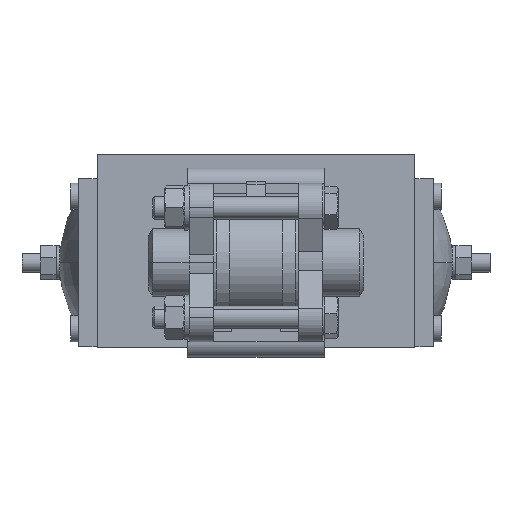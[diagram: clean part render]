
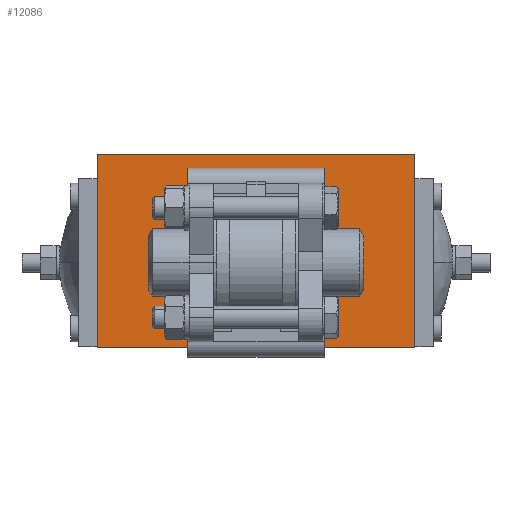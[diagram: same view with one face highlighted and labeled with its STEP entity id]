
A CAD part, front view. The second image highlights one B-rep face of the part: STEP entity #12086.
In plain terms, the highlighted planar face has unit normal (0, -1, 0).
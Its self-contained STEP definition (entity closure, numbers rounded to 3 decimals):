
#941 = CARTESIAN_POINT ( 'NONE',  ( -12.728, -22.5, -12.728 ) ) ;
#942 = DIRECTION ( 'NONE',  ( 0., -1., 0. ) ) ;
#943 = DIRECTION ( 'NONE',  ( 0., 0., -1. ) ) ;
#1681 = CARTESIAN_POINT ( 'NONE',  ( 12.728, -22.5, 12.728 ) ) ;
#1682 = DIRECTION ( 'NONE',  ( 0., -1., 0. ) ) ;
#1683 = DIRECTION ( 'NONE',  ( 0., 0., -1. ) ) ;
#1741 = LINE ( 'NONE', #1743, #7983 ) ;
#1743 = CARTESIAN_POINT ( 'NONE',  ( -22.5, -22.5, -42. ) ) ;
#1744 = DIRECTION ( 'NONE',  ( 1., 0., 0. ) ) ;
#1759 = CARTESIAN_POINT ( 'NONE',  ( 0., -22.5, 0. ) ) ;
#1760 = DIRECTION ( 'NONE',  ( 0., -1., 0. ) ) ;
#1761 = DIRECTION ( 'NONE',  ( 0., 0., -1. ) ) ;
#1778 = LINE ( 'NONE', #1779, #7968 ) ;
#1779 = CARTESIAN_POINT ( 'NONE',  ( 28.5, -22.5, -42. ) ) ;
#1780 = DIRECTION ( 'NONE',  ( 0., 0., 1. ) ) ;
#1817 = CARTESIAN_POINT ( 'NONE',  ( 12.728, -22.5, -12.728 ) ) ;
#1818 = DIRECTION ( 'NONE',  ( 0., -1., 0. ) ) ;
#1819 = DIRECTION ( 'NONE',  ( 0., 0., -1. ) ) ;
#1848 = CARTESIAN_POINT ( 'NONE',  ( -12.728, -22.5, 12.728 ) ) ;
#1849 = DIRECTION ( 'NONE',  ( 0., -1., 0. ) ) ;
#1850 = DIRECTION ( 'NONE',  ( 0., 0., -1. ) ) ;
#2060 = CARTESIAN_POINT ( 'NONE',  ( 12.728, -22.5, 14.828 ) ) ;
#2061 = CARTESIAN_POINT ( 'NONE',  ( 12.728, -22.5, 10.628 ) ) ;
#2063 = CARTESIAN_POINT ( 'NONE',  ( 12.728, -22.5, -10.628 ) ) ;
#2067 = CARTESIAN_POINT ( 'NONE',  ( 12.728, -22.5, -14.828 ) ) ;
#2070 = CARTESIAN_POINT ( 'NONE',  ( -12.728, -22.5, -10.628 ) ) ;
#2071 = CARTESIAN_POINT ( 'NONE',  ( -12.728, -22.5, -14.828 ) ) ;
#2076 = CARTESIAN_POINT ( 'NONE',  ( -12.728, -22.5, 14.828 ) ) ;
#2078 = CARTESIAN_POINT ( 'NONE',  ( -12.728, -22.5, 10.628 ) ) ;
#2105 = CARTESIAN_POINT ( 'NONE',  ( 0., -22.5, 10. ) ) ;
#2106 = CARTESIAN_POINT ( 'NONE',  ( 0., -22.5, -10. ) ) ;
#2281 = CARTESIAN_POINT ( 'NONE',  ( -22.5, -22.5, -42. ) ) ;
#2289 = CARTESIAN_POINT ( 'NONE',  ( 28.5, -22.5, -42. ) ) ;
#2295 = CARTESIAN_POINT ( 'NONE',  ( -22.5, -22.5, 42. ) ) ;
#2301 = CARTESIAN_POINT ( 'NONE',  ( 28.5, -22.5, 42. ) ) ;
#2661 = EDGE_CURVE ( 'NONE', #13139, #13140, #14963, .T. ) ;
#2669 = EDGE_CURVE ( 'NONE', #13142, #13146, #14947, .T. ) ;
#2673 = EDGE_CURVE ( 'NONE', #13149, #13150, #14928, .T. ) ;
#2679 = EDGE_CURVE ( 'NONE', #13155, #13157, #14911, .T. ) ;
#7058 = AXIS2_PLACEMENT_3D ( 'NONE', #7337, #7338, #7339 ) ;
#7317 = FACE_BOUND ( 'NONE', #15555, .T. ) ;
#7330 = FACE_BOUND ( 'NONE', #15551, .T. ) ;
#7331 = FACE_BOUND ( 'NONE', #15545, .T. ) ;
#7332 = FACE_OUTER_BOUND ( 'NONE', #15642, .T. ) ;
#7333 = PLANE ( 'NONE',  #7058 ) ;
#7334 = FACE_BOUND ( 'NONE', #15553, .T. ) ;
#7336 = FACE_BOUND ( 'NONE', #15550, .T. ) ;
#7337 = CARTESIAN_POINT ( 'NONE',  ( -22.5, -22.5, -42. ) ) ;
#7338 = DIRECTION ( 'NONE',  ( 0., -1., 0. ) ) ;
#7339 = DIRECTION ( 'NONE',  ( 0., 0., -1. ) ) ;
#7698 = EDGE_CURVE ( 'NONE', #13150, #13149, #11009, .T. ) ;
#7764 = EDGE_CURVE ( 'NONE', #13374, #13380, #8444, .T. ) ;
#7932 = AXIS2_PLACEMENT_3D ( 'NONE', #1848, #1849, #1850 ) ;
#7934 = CIRCLE ( 'NONE', #7932, 2.1 ) ;
#7950 = AXIS2_PLACEMENT_3D ( 'NONE', #1817, #1818, #1819 ) ;
#7953 = CIRCLE ( 'NONE', #7950, 2.1 ) ;
#7968 = VECTOR ( 'NONE', #1780, 1000. ) ;
#7974 = AXIS2_PLACEMENT_3D ( 'NONE', #1759, #1760, #1761 ) ;
#7976 = CIRCLE ( 'NONE', #7974, 10. ) ;
#7983 = VECTOR ( 'NONE', #1744, 1000. ) ;
#8010 = AXIS2_PLACEMENT_3D ( 'NONE', #1681, #1682, #1683 ) ;
#8012 = CIRCLE ( 'NONE', #8010, 2.1 ) ;
#8444 = LINE ( 'NONE', #8446, #11323 ) ;
#8446 = CARTESIAN_POINT ( 'NONE',  ( -22.5, -22.5, 42. ) ) ;
#8447 = DIRECTION ( 'NONE',  ( 1., 0., 0. ) ) ;
#8934 = EDGE_CURVE ( 'NONE', #13360, #13374, #9677, .T. ) ;
#9389 = EDGE_CURVE ( 'NONE', #13184, #13185, #11138, .T. ) ;
#9677 = LINE ( 'NONE', #9691, #11409 ) ;
#9691 = CARTESIAN_POINT ( 'NONE',  ( -22.5, -22.5, -42. ) ) ;
#9693 = DIRECTION ( 'NONE',  ( 0., 0., 1. ) ) ;
#9940 = CARTESIAN_POINT ( 'NONE',  ( 0., -22.5, 0. ) ) ;
#9941 = DIRECTION ( 'NONE',  ( 0., -1., 0. ) ) ;
#9942 = DIRECTION ( 'NONE',  ( 0., 0., -1. ) ) ;
#10242 = CARTESIAN_POINT ( 'NONE',  ( 12.728, -22.5, 12.728 ) ) ;
#10243 = DIRECTION ( 'NONE',  ( 0., -1., 0. ) ) ;
#10244 = DIRECTION ( 'NONE',  ( 0., 0., -1. ) ) ;
#10264 = CARTESIAN_POINT ( 'NONE',  ( 12.728, -22.5, -12.728 ) ) ;
#10265 = DIRECTION ( 'NONE',  ( 0., -1., 0. ) ) ;
#10266 = DIRECTION ( 'NONE',  ( 0., 0., -1. ) ) ;
#10278 = CARTESIAN_POINT ( 'NONE',  ( -12.728, -22.5, -12.728 ) ) ;
#10279 = DIRECTION ( 'NONE',  ( 0., -1., 0. ) ) ;
#10280 = DIRECTION ( 'NONE',  ( 0., 0., -1. ) ) ;
#10296 = CARTESIAN_POINT ( 'NONE',  ( -12.728, -22.5, 12.728 ) ) ;
#10297 = DIRECTION ( 'NONE',  ( 0., -1., 0. ) ) ;
#10298 = DIRECTION ( 'NONE',  ( 0., 0., -1. ) ) ;
#10972 = AXIS2_PLACEMENT_3D ( 'NONE', #9940, #9941, #9942 ) ;
#11009 = CIRCLE ( 'NONE', #11333, 2.1 ) ;
#11138 = CIRCLE ( 'NONE', #10972, 10. ) ;
#11323 = VECTOR ( 'NONE', #8447, 1000. ) ;
#11333 = AXIS2_PLACEMENT_3D ( 'NONE', #941, #942, #943 ) ;
#11409 = VECTOR ( 'NONE', #9693, 1000. ) ;
#12086 = ADVANCED_FACE ( 'NONE', ( #7331, #7317, #7334, #7336, #7330, #7332 ), #7333, .T. ) ;
#12840 = EDGE_CURVE ( 'NONE', #13140, #13139, #8012, .T. ) ;
#12860 = EDGE_CURVE ( 'NONE', #13360, #13368, #1741, .T. ) ;
#12866 = EDGE_CURVE ( 'NONE', #13185, #13184, #7976, .T. ) ;
#12873 = EDGE_CURVE ( 'NONE', #13368, #13380, #1778, .T. ) ;
#12886 = EDGE_CURVE ( 'NONE', #13146, #13142, #7953, .T. ) ;
#12895 = EDGE_CURVE ( 'NONE', #13157, #13155, #7934, .T. ) ;
#13139 = VERTEX_POINT ( 'NONE', #2060 ) ;
#13140 = VERTEX_POINT ( 'NONE', #2061 ) ;
#13142 = VERTEX_POINT ( 'NONE', #2063 ) ;
#13146 = VERTEX_POINT ( 'NONE', #2067 ) ;
#13149 = VERTEX_POINT ( 'NONE', #2070 ) ;
#13150 = VERTEX_POINT ( 'NONE', #2071 ) ;
#13155 = VERTEX_POINT ( 'NONE', #2076 ) ;
#13157 = VERTEX_POINT ( 'NONE', #2078 ) ;
#13184 = VERTEX_POINT ( 'NONE', #2105 ) ;
#13185 = VERTEX_POINT ( 'NONE', #2106 ) ;
#13360 = VERTEX_POINT ( 'NONE', #2281 ) ;
#13368 = VERTEX_POINT ( 'NONE', #2289 ) ;
#13374 = VERTEX_POINT ( 'NONE', #2295 ) ;
#13380 = VERTEX_POINT ( 'NONE', #2301 ) ;
#14517 = ORIENTED_EDGE ( 'NONE', *, *, #12840, .F. ) ;
#14518 = ORIENTED_EDGE ( 'NONE', *, *, #2661, .F. ) ;
#14519 = ORIENTED_EDGE ( 'NONE', *, *, #12886, .F. ) ;
#14520 = ORIENTED_EDGE ( 'NONE', *, *, #2669, .F. ) ;
#14521 = ORIENTED_EDGE ( 'NONE', *, *, #7698, .F. ) ;
#14522 = ORIENTED_EDGE ( 'NONE', *, *, #2673, .F. ) ;
#14523 = ORIENTED_EDGE ( 'NONE', *, *, #12895, .F. ) ;
#14524 = ORIENTED_EDGE ( 'NONE', *, *, #2679, .F. ) ;
#14525 = ORIENTED_EDGE ( 'NONE', *, *, #12866, .F. ) ;
#14526 = ORIENTED_EDGE ( 'NONE', *, *, #9389, .F. ) ;
#14527 = ORIENTED_EDGE ( 'NONE', *, *, #12873, .T. ) ;
#14528 = ORIENTED_EDGE ( 'NONE', *, *, #7764, .F. ) ;
#14529 = ORIENTED_EDGE ( 'NONE', *, *, #8934, .F. ) ;
#14530 = ORIENTED_EDGE ( 'NONE', *, *, #12860, .T. ) ;
#14904 = AXIS2_PLACEMENT_3D ( 'NONE', #10296, #10297, #10298 ) ;
#14911 = CIRCLE ( 'NONE', #14904, 2.1 ) ;
#14920 = AXIS2_PLACEMENT_3D ( 'NONE', #10278, #10279, #10280 ) ;
#14928 = CIRCLE ( 'NONE', #14920, 2.1 ) ;
#14938 = AXIS2_PLACEMENT_3D ( 'NONE', #10264, #10265, #10266 ) ;
#14947 = CIRCLE ( 'NONE', #14938, 2.1 ) ;
#14956 = AXIS2_PLACEMENT_3D ( 'NONE', #10242, #10243, #10244 ) ;
#14963 = CIRCLE ( 'NONE', #14956, 2.1 ) ;
#15545 = EDGE_LOOP ( 'NONE', ( #14517, #14518 ) ) ;
#15550 = EDGE_LOOP ( 'NONE', ( #14523, #14524 ) ) ;
#15551 = EDGE_LOOP ( 'NONE', ( #14525, #14526 ) ) ;
#15553 = EDGE_LOOP ( 'NONE', ( #14521, #14522 ) ) ;
#15555 = EDGE_LOOP ( 'NONE', ( #14519, #14520 ) ) ;
#15642 = EDGE_LOOP ( 'NONE', ( #14527, #14528, #14529, #14530 ) ) ;
